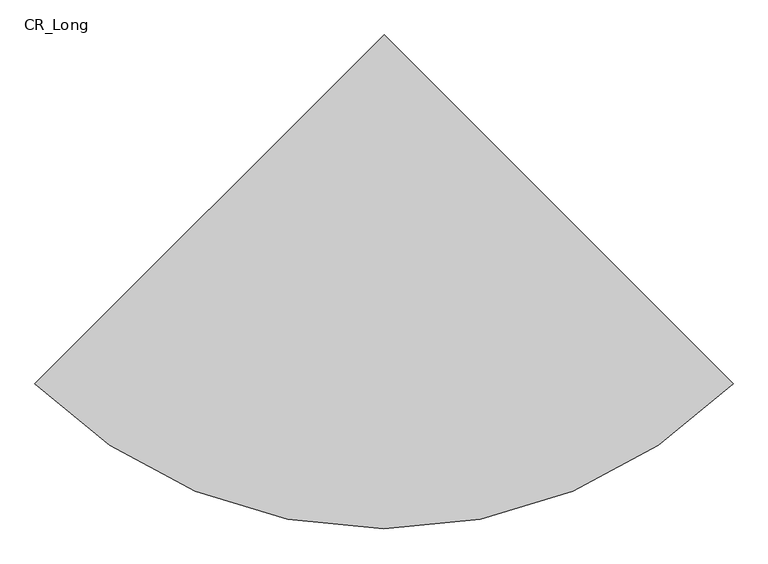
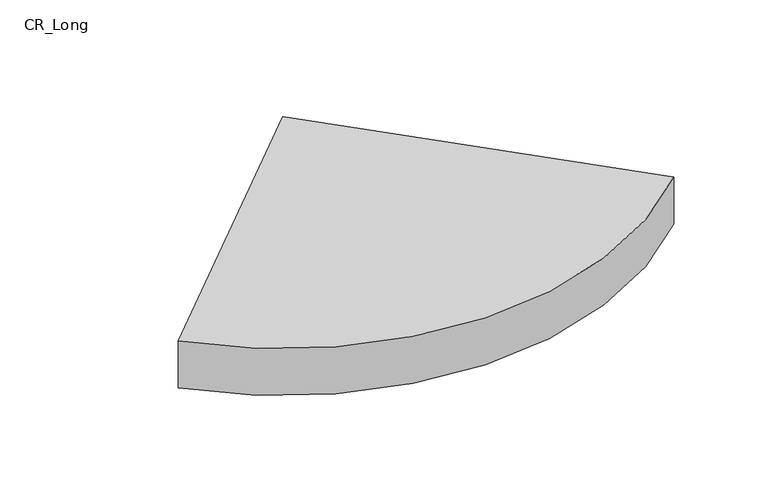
"""IFC4 building model written with IfcOpenShell, lengths in millimetres: furniture geometry, Memo_Candy_Table_Corner : CR_Long."""

from ifc_helpers import new_model, si_unit, point, frame, frame_2d, origin, origin_with_axes, place, context, project, spatial, polyline, circle_curve, trimmed, segment, composite_curve, outline, extrude, source, transform, mapped, element, save


def cr_long_dad4952b(model_context):
    return source(origin(), model_context, "Body", "SweptSolid", [
        extrude(outline(composite_curve([segment(trimmed(circle_curve(frame_2d((-511.9509259, -210.6837432)), 14.2875), [point((-497.6634259, -210.6837432))], [point((-526.2384259, -210.6837432))], False, "CARTESIAN"), True, "CONTINUOUS"), segment(trimmed(circle_curve(frame_2d((-511.9509259, -210.6837432)), 14.2875), [point((-526.2384259, -210.6837432))], [point((-497.6634259, -210.6837432))], False, "CARTESIAN"), True, "CONTINUOUS")], self_intersect=False)), origin_with_axes(), (0.0, 0.0, 1.0), 10.2362),
        extrude(outline(composite_curve([segment(trimmed(circle_curve(frame_2d((0.0, 323.85)), 14.2875), [point((14.2875, 323.85))], [point((-14.2875, 323.85))], False, "CARTESIAN"), True, "CONTINUOUS"), segment(trimmed(circle_curve(frame_2d((0.0, 323.85)), 14.2875), [point((-14.2875, 323.85))], [point((14.2875, 323.85))], False, "CARTESIAN"), True, "CONTINUOUS")], self_intersect=False)), origin_with_axes(), (0.0, 0.0, 1.0), 10.2362),
        extrude(outline(composite_curve([segment(trimmed(circle_curve(frame_2d((511.9509259, -210.6837432)), 14.2875), [point((526.2384259, -210.6837432))], [point((497.6634259, -210.6837432))], False, "CARTESIAN"), True, "CONTINUOUS"), segment(trimmed(circle_curve(frame_2d((511.9509259, -210.6837432)), 14.2875), [point((497.6634259, -210.6837432))], [point((526.2384259, -210.6837432))], False, "CARTESIAN"), True, "CONTINUOUS")], self_intersect=False)), origin_with_axes(), (0.0, 0.0, 1.0), 10.2362),
        extrude(outline(composite_curve([segment(trimmed(circle_curve(frame_2d((0.0, 400.05)), 850.9), [point((601.6771601, -201.6271601))], [point((-601.6771601, -201.6271601))], False, "CARTESIAN"), True, "CONTINUOUS"), segment(polyline([(-601.6771601, -201.6271601), (0.0, 400.05), (601.6771601, -201.6271601)]), True, "CONTINUOUS")], self_intersect=False)), frame((0.0, 0.0, 10.2362), z_axis=(0.0, 0.0, 1.0), x_axis=(1.0, 0.0, 0.0)), (0.0, 0.0, 1.0), 120.65),
    ])


if __name__ == "__main__":
    model = new_model("IFC4")
    model_context = context("Model", 3, world=origin())
    ifc_project = project(units=[si_unit("LENGTHUNIT", "METRE", prefix="MILLI")], contexts=[model_context])
    site = spatial("IfcSite", under=ifc_project)
    building = spatial("IfcBuilding", under=site)
    placement = place(None, origin())
    cr_long_shape = cr_long_dad4952b(model_context)
    element("IfcFurniture", 1, ObjectType="Memo_Candy_Table_Corner : CR_Long", at=placement, inside=building, context=model_context, shape_type="MappedRepresentation", body=[
        mapped(cr_long_shape, transform((0.0, 0.0, 0.0), x_axis=(1.0, 0.0, 0.0), y_axis=(0.0, 1.0, 0.0), z_axis=(0.0, 0.0, 1.0))),
    ])
    save(model, "model.ifc")
